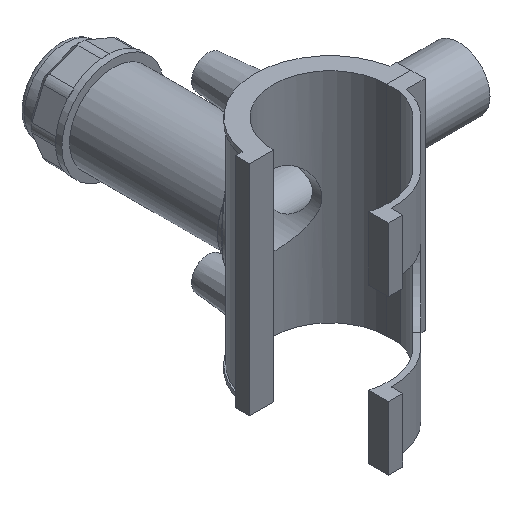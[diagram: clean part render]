
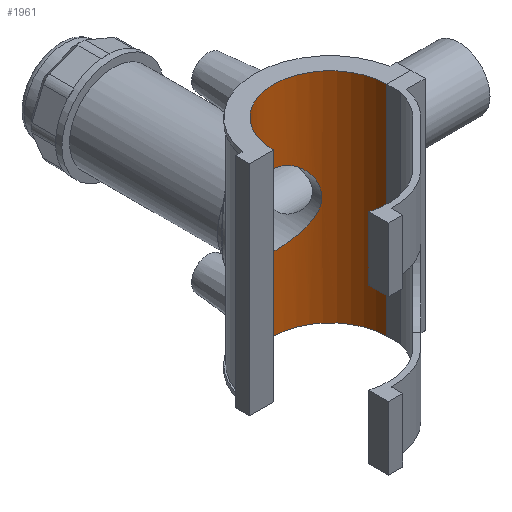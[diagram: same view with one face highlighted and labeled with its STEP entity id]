
A CAD part, isometric view. The second image highlights one B-rep face of the part: STEP entity #1961.
In plain terms, the highlighted cylindrical face has radius 26.05 mm (diameter 52.1 mm), a partial arc.
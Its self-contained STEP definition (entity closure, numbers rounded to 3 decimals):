
#51=FACE_BOUND('',#632,.T.);
#52=B_SPLINE_CURVE_WITH_KNOTS('',3,(#2806,#2807,#2808,#2809,#2810,#2811,
#2812,#2813,#2814,#2815,#2816,#2817,#2818,#2819,#2820,#2821,#2822,#2823,
#2824,#2825,#2826,#2827,#2828,#2829,#2830,#2831,#2832,#2833,#2834,#2835,
#2836,#2837,#2838,#2839,#2840,#2841,#2842,#2843,#2844,#2845,#2846,#2847,
#2848,#2849),.UNSPECIFIED.,.F.,.F.,(4,2,2,2,2,2,2,2,2,2,2,2,2,2,2,2,2,2,
2,2,2,4),(0.,0.321,0.643,1.286,1.605,
1.924,2.243,2.561,2.88,3.199,
3.518,3.837,4.48,4.801,5.123,
5.444,5.766,6.409,6.728,7.046,
7.365,7.684),.UNSPECIFIED.);
#53=B_SPLINE_CURVE_WITH_KNOTS('',3,(#2850,#2851,#2852,#2853,#2854,#2855,
#2856,#2857,#2858,#2859,#2860,#2861,#2862,#2863,#2864,#2865),
 .UNSPECIFIED.,.F.,.F.,(4,2,2,2,2,2,2,4),(7.684,8.003,
8.322,8.641,8.96,9.603,9.924,
10.246),.UNSPECIFIED.);
#179=LINE('',#3777,#336);
#180=LINE('',#3781,#337);
#336=VECTOR('',#2638,10.);
#337=VECTOR('',#2641,10.);
#420=CYLINDRICAL_SURFACE('',#2175,26.05);
#511=FACE_OUTER_BOUND('',#631,.T.);
#631=EDGE_LOOP('',(#1664,#1665,#1666,#1667));
#632=EDGE_LOOP('',(#1668,#1669));
#733=CIRCLE('',#2172,26.05);
#734=CIRCLE('',#2174,26.05);
#753=VERTEX_POINT('',#2803);
#754=VERTEX_POINT('',#2805);
#891=VERTEX_POINT('',#3771);
#893=VERTEX_POINT('',#3775);
#894=VERTEX_POINT('',#3779);
#895=VERTEX_POINT('',#3780);
#945=EDGE_CURVE('',#754,#753,#52,.T.);
#946=EDGE_CURVE('',#753,#754,#53,.T.);
#1154=EDGE_CURVE('',#891,#893,#179,.T.);
#1155=EDGE_CURVE('',#894,#895,#180,.T.);
#1161=EDGE_CURVE('',#891,#895,#733,.T.);
#1162=EDGE_CURVE('',#894,#893,#734,.T.);
#1664=ORIENTED_EDGE('',*,*,#1155,.T.);
#1665=ORIENTED_EDGE('',*,*,#1161,.F.);
#1666=ORIENTED_EDGE('',*,*,#1154,.T.);
#1667=ORIENTED_EDGE('',*,*,#1162,.F.);
#1668=ORIENTED_EDGE('',*,*,#945,.T.);
#1669=ORIENTED_EDGE('',*,*,#946,.T.);
#1961=ADVANCED_FACE('',(#511,#51),#420,.F.);
#2172=AXIS2_PLACEMENT_3D('',#3790,#2649,#2650);
#2174=AXIS2_PLACEMENT_3D('',#3792,#2653,#2654);
#2175=AXIS2_PLACEMENT_3D('',#3795,#2657,#2658);
#2638=DIRECTION('',(0.,0.,-1.));
#2641=DIRECTION('',(0.,0.,1.));
#2649=DIRECTION('center_axis',(0.,0.,-1.));
#2650=DIRECTION('ref_axis',(-1.,0.,0.));
#2653=DIRECTION('center_axis',(0.,0.,1.));
#2654=DIRECTION('ref_axis',(-1.,0.,0.));
#2657=DIRECTION('center_axis',(0.,0.,1.));
#2658=DIRECTION('ref_axis',(-1.,0.,0.));
#2803=CARTESIAN_POINT('',(0.,26.05,-16.412));
#2805=CARTESIAN_POINT('',(-16.412,20.23,0.));
#2806=CARTESIAN_POINT('Ctrl Pts',(-16.412,20.23,0.));
#2807=CARTESIAN_POINT('Ctrl Pts',(-16.412,20.23,1.072));
#2808=CARTESIAN_POINT('Ctrl Pts',(-16.305,20.318,2.164));
#2809=CARTESIAN_POINT('Ctrl Pts',(-15.873,20.657,4.31));
#2810=CARTESIAN_POINT('Ctrl Pts',(-15.548,20.908,5.364));
#2811=CARTESIAN_POINT('Ctrl Pts',(-14.282,21.811,8.373));
#2812=CARTESIAN_POINT('Ctrl Pts',(-13.034,22.611,10.175));
#2813=CARTESIAN_POINT('Ctrl Pts',(-10.896,23.675,12.314));
#2814=CARTESIAN_POINT('Ctrl Pts',(-10.093,24.034,12.985));
#2815=CARTESIAN_POINT('Ctrl Pts',(-8.332,24.7,14.179));
#2816=CARTESIAN_POINT('Ctrl Pts',(-7.374,25.006,14.702));
#2817=CARTESIAN_POINT('Ctrl Pts',(-5.36,25.514,15.55));
#2818=CARTESIAN_POINT('Ctrl Pts',(-4.301,25.715,15.876));
#2819=CARTESIAN_POINT('Ctrl Pts',(-2.152,25.983,16.307));
#2820=CARTESIAN_POINT('Ctrl Pts',(-1.063,26.05,16.412));
#2821=CARTESIAN_POINT('Ctrl Pts',(1.063,26.05,16.412));
#2822=CARTESIAN_POINT('Ctrl Pts',(2.152,25.983,16.307));
#2823=CARTESIAN_POINT('Ctrl Pts',(4.301,25.715,15.876));
#2824=CARTESIAN_POINT('Ctrl Pts',(5.36,25.514,15.55));
#2825=CARTESIAN_POINT('Ctrl Pts',(7.374,25.006,14.702));
#2826=CARTESIAN_POINT('Ctrl Pts',(8.332,24.7,14.179));
#2827=CARTESIAN_POINT('Ctrl Pts',(10.093,24.034,12.985));
#2828=CARTESIAN_POINT('Ctrl Pts',(10.896,23.675,12.314));
#2829=CARTESIAN_POINT('Ctrl Pts',(13.034,22.611,10.175));
#2830=CARTESIAN_POINT('Ctrl Pts',(14.282,21.811,8.373));
#2831=CARTESIAN_POINT('Ctrl Pts',(15.548,20.908,5.364));
#2832=CARTESIAN_POINT('Ctrl Pts',(15.873,20.657,4.31));
#2833=CARTESIAN_POINT('Ctrl Pts',(16.305,20.318,2.164));
#2834=CARTESIAN_POINT('Ctrl Pts',(16.412,20.23,1.072));
#2835=CARTESIAN_POINT('Ctrl Pts',(16.412,20.23,-1.072));
#2836=CARTESIAN_POINT('Ctrl Pts',(16.305,20.318,-2.164));
#2837=CARTESIAN_POINT('Ctrl Pts',(15.873,20.657,-4.31));
#2838=CARTESIAN_POINT('Ctrl Pts',(15.548,20.908,-5.364));
#2839=CARTESIAN_POINT('Ctrl Pts',(14.282,21.811,-8.373));
#2840=CARTESIAN_POINT('Ctrl Pts',(13.034,22.611,-10.175));
#2841=CARTESIAN_POINT('Ctrl Pts',(10.896,23.675,-12.314));
#2842=CARTESIAN_POINT('Ctrl Pts',(10.093,24.034,-12.985));
#2843=CARTESIAN_POINT('Ctrl Pts',(8.332,24.7,-14.179));
#2844=CARTESIAN_POINT('Ctrl Pts',(7.374,25.006,-14.702));
#2845=CARTESIAN_POINT('Ctrl Pts',(5.36,25.514,-15.55));
#2846=CARTESIAN_POINT('Ctrl Pts',(4.301,25.715,-15.876));
#2847=CARTESIAN_POINT('Ctrl Pts',(2.152,25.983,-16.307));
#2848=CARTESIAN_POINT('Ctrl Pts',(1.063,26.05,-16.412));
#2849=CARTESIAN_POINT('Ctrl Pts',(0.,26.05,-16.412));
#2850=CARTESIAN_POINT('Ctrl Pts',(0.,26.05,-16.412));
#2851=CARTESIAN_POINT('Ctrl Pts',(-1.063,26.05,-16.412));
#2852=CARTESIAN_POINT('Ctrl Pts',(-2.152,25.983,-16.307));
#2853=CARTESIAN_POINT('Ctrl Pts',(-4.301,25.715,-15.876));
#2854=CARTESIAN_POINT('Ctrl Pts',(-5.36,25.514,-15.55));
#2855=CARTESIAN_POINT('Ctrl Pts',(-7.374,25.006,-14.702));
#2856=CARTESIAN_POINT('Ctrl Pts',(-8.332,24.7,-14.179));
#2857=CARTESIAN_POINT('Ctrl Pts',(-10.093,24.034,-12.985));
#2858=CARTESIAN_POINT('Ctrl Pts',(-10.896,23.675,-12.314));
#2859=CARTESIAN_POINT('Ctrl Pts',(-13.034,22.611,-10.175));
#2860=CARTESIAN_POINT('Ctrl Pts',(-14.282,21.811,-8.373));
#2861=CARTESIAN_POINT('Ctrl Pts',(-15.548,20.908,-5.364));
#2862=CARTESIAN_POINT('Ctrl Pts',(-15.873,20.657,-4.31));
#2863=CARTESIAN_POINT('Ctrl Pts',(-16.305,20.318,-2.164));
#2864=CARTESIAN_POINT('Ctrl Pts',(-16.412,20.23,-1.072));
#2865=CARTESIAN_POINT('Ctrl Pts',(-16.412,20.23,0.));
#3771=CARTESIAN_POINT('',(-26.05,0.05,50.038));
#3775=CARTESIAN_POINT('',(-26.05,0.05,-50.038));
#3777=CARTESIAN_POINT('',(-26.05,0.05,0.));
#3779=CARTESIAN_POINT('',(26.05,0.05,-50.038));
#3780=CARTESIAN_POINT('',(26.05,0.05,50.038));
#3781=CARTESIAN_POINT('',(26.05,0.05,0.));
#3790=CARTESIAN_POINT('Origin',(0.,0.,50.038));
#3792=CARTESIAN_POINT('Origin',(0.,0.,-50.038));
#3795=CARTESIAN_POINT('Origin',(0.,0.,0.));
